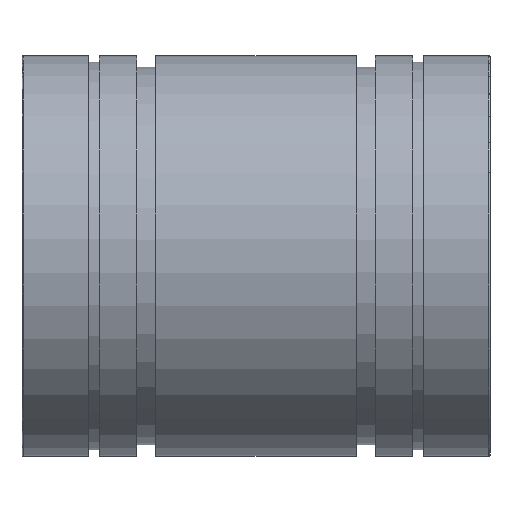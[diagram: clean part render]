
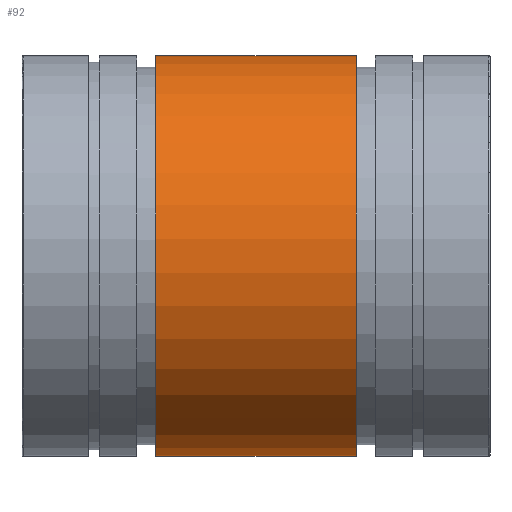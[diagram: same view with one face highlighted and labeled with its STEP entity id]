
A CAD part, top view. The second image highlights one B-rep face of the part: STEP entity #92.
In plain terms, the highlighted cylindrical face has radius 75 mm (diameter 150 mm), a partial arc.
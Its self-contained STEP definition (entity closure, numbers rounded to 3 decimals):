
#92=ADVANCED_FACE('',(#136),#137,.T.);
#136=FACE_OUTER_BOUND('',#188,.T.);
#137=CYLINDRICAL_SURFACE('',#189,75.0);
#188=EDGE_LOOP('',(#365,#366,#367,#368));
#189=AXIS2_PLACEMENT_3D('',#369,#370,#371);
#365=ORIENTED_EDGE('',*,*,#438,.F.);
#366=ORIENTED_EDGE('',*,*,#492,.F.);
#367=ORIENTED_EDGE('',*,*,#476,.F.);
#368=ORIENTED_EDGE('',*,*,#491,.T.);
#369=CARTESIAN_POINT('',(0.0,0.0,0.0));
#370=DIRECTION('',(1.0,-0.0,-0.0));
#371=DIRECTION('',(0.0,0.0,1.0));
#438=EDGE_CURVE('',#519,#521,#522,.F.);
#476=EDGE_CURVE('',#587,#589,#590,.T.);
#491=EDGE_CURVE('',#587,#521,#611,.T.);
#492=EDGE_CURVE('',#589,#519,#612,.T.);
#519=VERTEX_POINT('',#652);
#521=VERTEX_POINT('',#655);
#522=LINE('',#656,#657);
#587=VERTEX_POINT('',#778);
#589=VERTEX_POINT('',#781);
#590=LINE('',#782,#783);
#611=CIRCLE('',#811,75.0);
#612=CIRCLE('',#812,75.0);
#652=CARTESIAN_POINT('',(50.01,35.592,-66.017));
#655=CARTESIAN_POINT('',(124.991,35.592,-66.017));
#656=CARTESIAN_POINT('',(0.0,35.592,-66.017));
#657=VECTOR('',#829,1.0);
#778=CARTESIAN_POINT('',(124.991,-35.592,-66.017));
#781=CARTESIAN_POINT('',(50.01,-35.592,-66.017));
#782=CARTESIAN_POINT('',(0.0,-35.592,-66.017));
#783=VECTOR('',#876,1.0);
#811=AXIS2_PLACEMENT_3D('',#905,#906,#907);
#812=AXIS2_PLACEMENT_3D('',#908,#909,#910);
#829=DIRECTION('',(-1.0,0.0,0.0));
#876=DIRECTION('',(-1.0,0.0,0.0));
#905=CARTESIAN_POINT('',(124.991,0.0,0.0));
#906=DIRECTION('',(-1.0,0.0,0.0));
#907=DIRECTION('',(0.0,0.0,1.0));
#908=CARTESIAN_POINT('',(50.01,0.0,0.0));
#909=DIRECTION('',(-1.0,0.0,0.0));
#910=DIRECTION('',(0.0,0.0,1.0));
